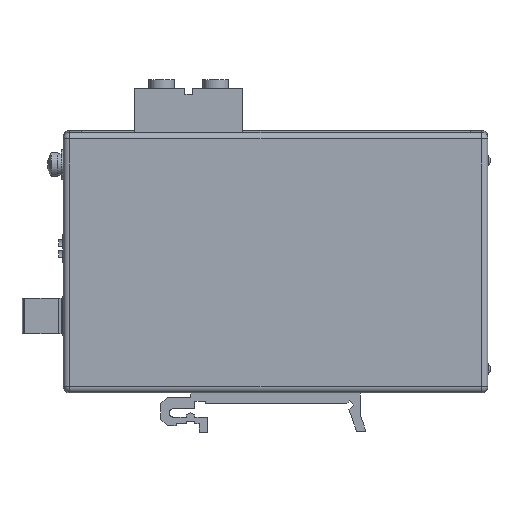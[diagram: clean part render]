
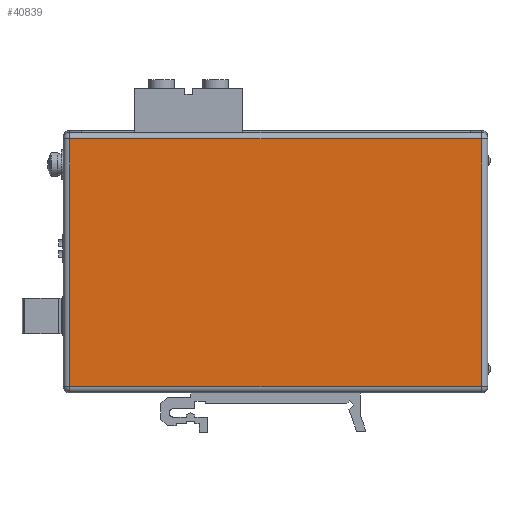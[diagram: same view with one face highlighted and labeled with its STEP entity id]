
A CAD part, front view. The second image highlights one B-rep face of the part: STEP entity #40839.
In plain terms, the highlighted planar face has unit normal (0, -1, 0).
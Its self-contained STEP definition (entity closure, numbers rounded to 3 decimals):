
#34179=DIRECTION('',(0.,0.,-1.));
#34180=VECTOR('',#34179,58.315);
#34181=CARTESIAN_POINT('',(-48.5,0.,29.015));
#34182=LINE('',#34181,#34180);
#34183=DIRECTION('',(-1.,0.,0.));
#34184=VECTOR('',#34183,97.);
#34185=CARTESIAN_POINT('',(48.5,0.,29.015));
#34186=LINE('',#34185,#34184);
#34187=DIRECTION('',(0.,0.,1.));
#34188=VECTOR('',#34187,58.315);
#34189=CARTESIAN_POINT('',(48.5,0.,-29.3));
#34190=LINE('',#34189,#34188);
#34195=DIRECTION('',(1.,0.,0.));
#34196=VECTOR('',#34195,97.);
#34197=CARTESIAN_POINT('',(-48.5,0.,-29.3));
#34198=LINE('',#34197,#34196);
#39508=CARTESIAN_POINT('',(-48.5,0.,29.015));
#39509=CARTESIAN_POINT('',(-48.5,0.,-29.3));
#39510=VERTEX_POINT('',#39508);
#39511=VERTEX_POINT('',#39509);
#39512=CARTESIAN_POINT('',(48.5,0.,-29.3));
#39513=CARTESIAN_POINT('',(48.5,0.,29.015));
#39514=VERTEX_POINT('',#39512);
#39515=VERTEX_POINT('',#39513);
#40824=CARTESIAN_POINT('',(0.,0.,0.));
#40825=DIRECTION('',(0.,1.,0.));
#40826=DIRECTION('',(0.,0.,-1.));
#40827=AXIS2_PLACEMENT_3D('',#40824,#40825,#40826);
#40828=PLANE('',#40827);
#40830=ORIENTED_EDGE('',*,*,#40829,.F.);
#40832=ORIENTED_EDGE('',*,*,#40831,.F.);
#40834=ORIENTED_EDGE('',*,*,#40833,.F.);
#40836=ORIENTED_EDGE('',*,*,#40835,.F.);
#40837=EDGE_LOOP('',(#40830,#40832,#40834,#40836));
#40838=FACE_OUTER_BOUND('',#40837,.F.);
#40839=ADVANCED_FACE('',(#40838),#40828,.F.);
#40829=EDGE_CURVE('',#39511,#39514,#34198,.T.);
#40831=EDGE_CURVE('',#39510,#39511,#34182,.T.);
#40833=EDGE_CURVE('',#39515,#39510,#34186,.T.);
#40835=EDGE_CURVE('',#39514,#39515,#34190,.T.);
